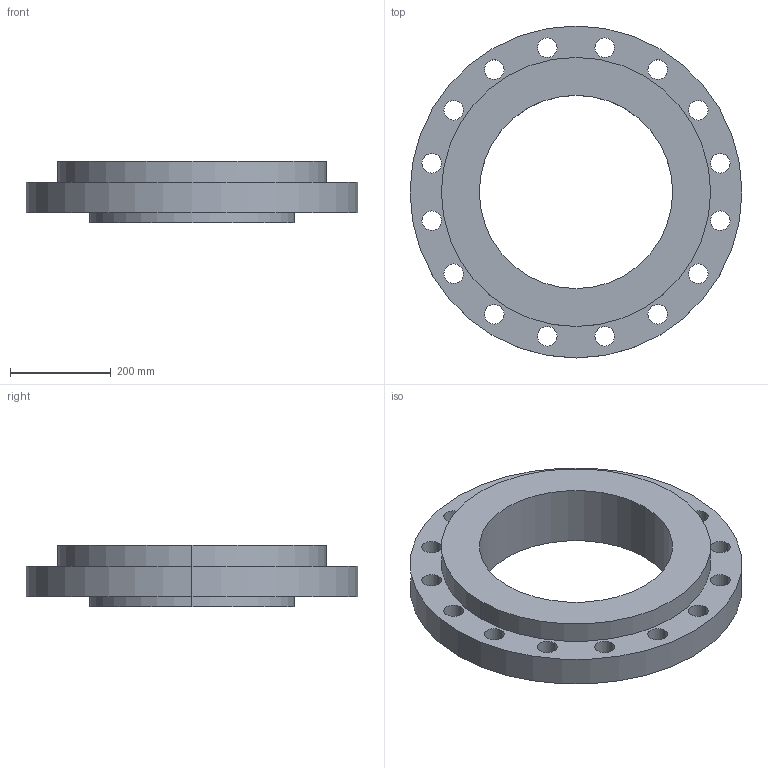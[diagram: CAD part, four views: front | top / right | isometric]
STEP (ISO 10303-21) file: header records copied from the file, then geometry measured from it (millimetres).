
FILE_DESCRIPTION (( 'STEP AP214' ), '1' );
FILE_NAME ('PN40 DN400 Type 04 in 34 - (Type A Face).STEP', '2019-01-05T23:22:49', ( '' ), ( '' ), 'SwSTEP 2.0', 'SolidWorks 2019', '' );
FILE_SCHEMA (( 'AUTOMOTIVE_DESIGN' ));
Length unit declared in the file: millimetre
Products named in the file (1): PN40 DN400 Type 04 in 34 - (Type A Face)
Bounding box: 660 x 660 x 122 mm (x, y, z)
Volume: 15039011.9 mm3; surface area: 1137295.9 mm2
Topology: 2 solids, 2 shells, 53 faces, 138 edges, 90 vertices
Faces by surface type: cylinder 42, cone 6, plane 5
Entity records: 1789 total; most frequent: DIRECTION 336, CARTESIAN_POINT 282, ORIENTED_EDGE 276, AXIS2_PLACEMENT_3D 144, EDGE_CURVE 138, CIRCLE 90, VERTEX_POINT 90, EDGE_LOOP 90
